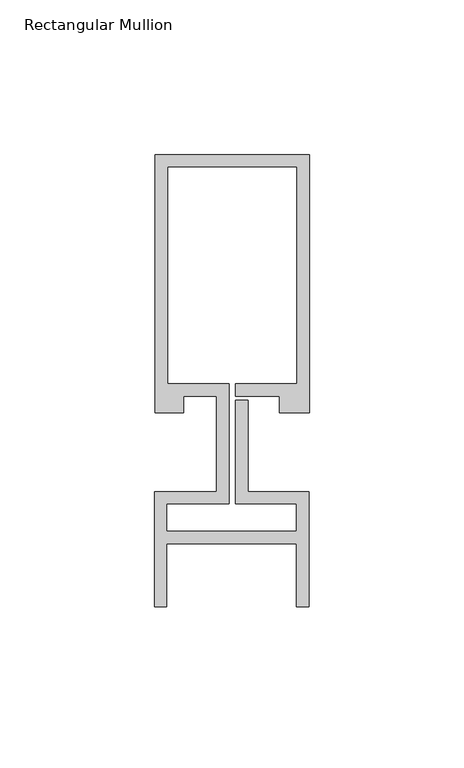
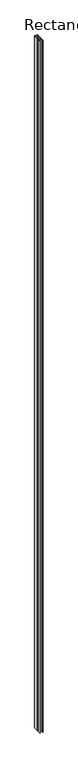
"""IFC4 building model written with IfcOpenShell, lengths in millimetres: member geometry, Rectangular Mullion : Reynaers_CW-50_Transom-Transom_83.5mm_Facecap-03."""

from ifc_helpers import new_model, si_unit, frame, origin, place, context, project, spatial, polyline, outline, extrude, source, transform, mapped, element, save


def rectangular_mullion_9e8da244(model_context):
    return source(origin(), model_context, "Body", "SweptSolid", [
        extrude(outline(polyline([(25.1995941, 12.7331291), (15.499, 12.7331291), (15.499, 18.1331291), (1.2995941, 18.1331291), (1.2995941, 22.1331291), (21.1995941, 22.1331291), (21.1995941, 92.2331291), (-20.8004059, 92.2331291), (-20.8004059, 22.1331291), (-0.9004059, 22.1331291), (-0.9004059, -16.7331291), (-20.994845, -16.7331291), (-20.994845, -25.5600018), (20.994845, -25.5600018), (20.994845, -16.7331291), (1.2995941, -16.7331291), (1.2995941, 16.7615089), (5.2995941, 16.7615089), (5.2995941, -12.7331291), (24.994845, -12.7331291), (24.994845, -50.0331291), (20.994845, -50.0331291), (20.994845, -29.5600018), (-20.994845, -29.5600018), (-20.994845, -50.0331291), (-24.994845, -50.0331291), (-24.994845, -12.7331291), (-4.9004059, -12.7331291), (-4.9004059, 18.1331291), (-15.499, 18.1331291), (-15.499, 12.7331291), (-24.8004059, 12.7331291), (-24.8004059, 96.2331291), (25.1995941, 96.2331291), (25.1995941, 12.7331291)])), frame((0.0, 0.0, -12000.0), z_axis=(0.0, 0.0, 1.0), x_axis=(1.0, 0.0, 0.0)), (0.0, 0.0, 1.0), 12000.0),
    ])


if __name__ == "__main__":
    model = new_model("IFC4")
    model_context = context("Model", 3, world=origin())
    ifc_project = project(units=[si_unit("LENGTHUNIT", "METRE", prefix="MILLI")], contexts=[model_context])
    site = spatial("IfcSite", under=ifc_project)
    building = spatial("IfcBuilding", under=site)
    placement = place(None, origin())
    rectangular_mullion_shape = rectangular_mullion_9e8da244(model_context)
    element("IfcMember", 1, ObjectType="Rectangular Mullion : Reynaers_CW-50_Transom-Transom_83.5mm_Facecap-03", at=placement, inside=building, context=model_context, shape_type="MappedRepresentation", body=[
        mapped(rectangular_mullion_shape, transform((0.0, 0.0, 0.0), x_axis=(1.0, 0.0, 0.0), y_axis=(0.0, 1.0, 0.0), z_axis=(0.0, 0.0, 1.0))),
    ])
    save(model, "model.ifc")
